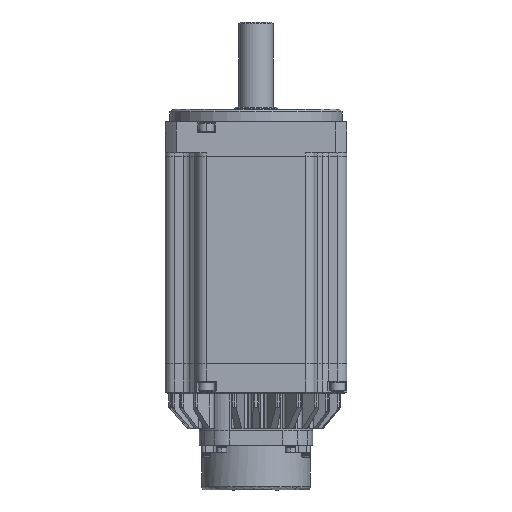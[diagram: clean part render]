
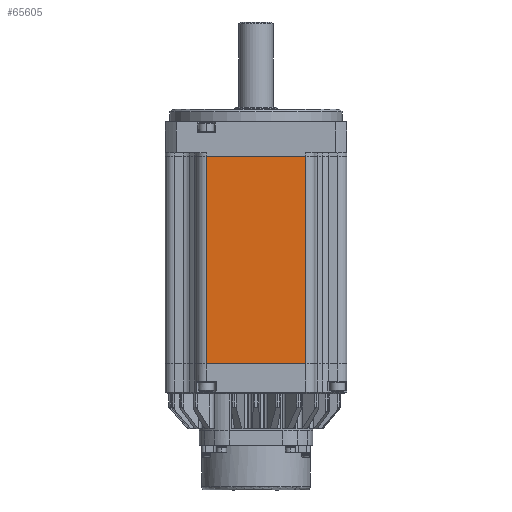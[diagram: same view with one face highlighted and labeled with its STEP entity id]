
A CAD part, front view. The second image highlights one B-rep face of the part: STEP entity #65605.
In plain terms, the highlighted planar face has unit normal (0, -1, 0).
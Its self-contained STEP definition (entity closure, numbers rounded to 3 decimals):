
#3689 = AXIS2_PLACEMENT_3D ( 'NONE', #66712, #53412, #11104 ) ;
#4358 = EDGE_CURVE ( 'NONE', #41879, #32372, #41900, .T. ) ;
#6882 = CARTESIAN_POINT ( 'NONE',  ( 77.5, 0., -173.5 ) ) ;
#11104 = DIRECTION ( 'NONE',  ( 0., 0., 1. ) ) ;
#14272 = DIRECTION ( 'NONE',  ( 0., 0., 1. ) ) ;
#16762 = CARTESIAN_POINT ( 'NONE',  ( 77.5, 0., -173.5 ) ) ;
#18780 = VERTEX_POINT ( 'NONE', #35759 ) ;
#21035 = DIRECTION ( 'NONE',  ( 0., 0., -1. ) ) ;
#23457 = EDGE_LOOP ( 'NONE', ( #89427, #81203, #30059, #49451 ) ) ;
#30059 = ORIENTED_EDGE ( 'NONE', *, *, #4358, .F. ) ;
#30983 = CARTESIAN_POINT ( 'NONE',  ( 82.5, 0., -59. ) ) ;
#32372 = VERTEX_POINT ( 'NONE', #49328 ) ;
#34589 = CARTESIAN_POINT ( 'NONE',  ( 77.5, 0., -155.5 ) ) ;
#35759 = CARTESIAN_POINT ( 'NONE',  ( 22.5, 0., -59. ) ) ;
#38057 = DIRECTION ( 'NONE',  ( 1., 0., 0. ) ) ;
#41879 = VERTEX_POINT ( 'NONE', #6882 ) ;
#41880 = EDGE_CURVE ( 'NONE', #32372, #18780, #69777, .T. ) ;
#41900 = LINE ( 'NONE', #16762, #60751 ) ;
#42115 = LINE ( 'NONE', #30983, #77576 ) ;
#45682 = PLANE ( 'NONE',  #3689 ) ;
#49328 = CARTESIAN_POINT ( 'NONE',  ( 22.5, 0., -173.5 ) ) ;
#49451 = ORIENTED_EDGE ( 'NONE', *, *, #58370, .F. ) ;
#49514 = CARTESIAN_POINT ( 'NONE',  ( 22.5, 0., -155.5 ) ) ;
#52070 = VERTEX_POINT ( 'NONE', #56041 ) ;
#53412 = DIRECTION ( 'NONE',  ( 0., 1., 0. ) ) ;
#56041 = CARTESIAN_POINT ( 'NONE',  ( 77.5, 0., -59. ) ) ;
#56316 = VECTOR ( 'NONE', #21035, 1000. ) ;
#58370 = EDGE_CURVE ( 'NONE', #52070, #41879, #60764, .T. ) ;
#59141 = DIRECTION ( 'NONE',  ( -1., 0., 0. ) ) ;
#60751 = VECTOR ( 'NONE', #59141, 1000. ) ;
#60764 = LINE ( 'NONE', #34589, #56316 ) ;
#64842 = EDGE_CURVE ( 'NONE', #18780, #52070, #42115, .T. ) ;
#65605 = ADVANCED_FACE ( 'NONE', ( #85381 ), #45682, .F. ) ;
#66712 = CARTESIAN_POINT ( 'NONE',  ( 82.5, 0., -155.5 ) ) ;
#69777 = LINE ( 'NONE', #49514, #84157 ) ;
#77576 = VECTOR ( 'NONE', #38057, 1000. ) ;
#81203 = ORIENTED_EDGE ( 'NONE', *, *, #41880, .F. ) ;
#84157 = VECTOR ( 'NONE', #14272, 1000. ) ;
#85381 = FACE_OUTER_BOUND ( 'NONE', #23457, .T. ) ;
#89427 = ORIENTED_EDGE ( 'NONE', *, *, #64842, .F. ) ;
